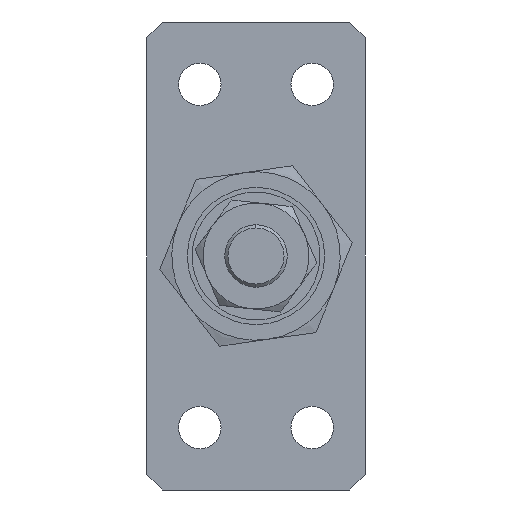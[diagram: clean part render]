
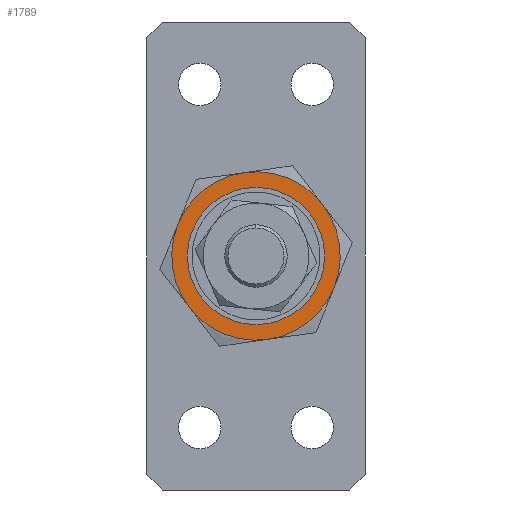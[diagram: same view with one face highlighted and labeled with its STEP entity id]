
A CAD part, left-side view. The second image highlights one B-rep face of the part: STEP entity #1789.
In plain terms, the highlighted planar face has unit normal (-1, 0, 0) as drawn and (0, 0, -1) by its records, which use the part's own axes.
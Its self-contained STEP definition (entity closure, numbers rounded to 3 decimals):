
#41 = AXIS2_PLACEMENT_3D ( 'NONE', #1384, #1090, #4224 ) ;
#47 = EDGE_CURVE ( 'NONE', #2459, #3938, #316, .T. ) ;
#82 = DIRECTION ( 'NONE',  ( 0., 0., 1. ) ) ;
#90 = AXIS2_PLACEMENT_3D ( 'NONE', #1731, #1877, #2382 ) ;
#146 = CIRCLE ( 'NONE', #3131, 10.25 ) ;
#209 = DIRECTION ( 'NONE',  ( 1., 0., 0. ) ) ;
#225 = VERTEX_POINT ( 'NONE', #244 ) ;
#244 = CARTESIAN_POINT ( 'NONE',  ( 10.25, 0., -5. ) ) ;
#316 = CIRCLE ( 'NONE', #41, 13.5 ) ;
#427 = DIRECTION ( 'NONE',  ( 1., 0., 0. ) ) ;
#429 = CARTESIAN_POINT ( 'NONE',  ( 0., 0., -5. ) ) ;
#573 = DIRECTION ( 'NONE',  ( 0., 0., 1. ) ) ;
#718 = AXIS2_PLACEMENT_3D ( 'NONE', #3729, #2376, #427 ) ;
#754 = CIRCLE ( 'NONE', #1694, 13.5 ) ;
#1042 = ORIENTED_EDGE ( 'NONE', *, *, #2053, .F. ) ;
#1090 = DIRECTION ( 'NONE',  ( 0., 0., 1. ) ) ;
#1317 = CARTESIAN_POINT ( 'NONE',  ( 13.5, 0., -5. ) ) ;
#1350 = AXIS2_PLACEMENT_3D ( 'NONE', #2370, #4009, #3576 ) ;
#1370 = CARTESIAN_POINT ( 'NONE',  ( 0., 0., -5. ) ) ;
#1384 = CARTESIAN_POINT ( 'NONE',  ( 0., 0., -5. ) ) ;
#1413 = EDGE_CURVE ( 'NONE', #2491, #225, #146, .T. ) ;
#1460 = EDGE_LOOP ( 'NONE', ( #4363, #3165, #1811, #1499, #3929, #1042 ) ) ;
#1494 = EDGE_CURVE ( 'NONE', #225, #2491, #2557, .T. ) ;
#1499 = ORIENTED_EDGE ( 'NONE', *, *, #3984, .F. ) ;
#1502 = EDGE_CURVE ( 'NONE', #3649, #2682, #754, .T. ) ;
#1694 = AXIS2_PLACEMENT_3D ( 'NONE', #429, #3939, #3652 ) ;
#1731 = CARTESIAN_POINT ( 'NONE',  ( 0., 0., -5. ) ) ;
#1789 = ADVANCED_FACE ( 'NONE', ( #2958, #2449 ), #3239, .F. ) ;
#1811 = ORIENTED_EDGE ( 'NONE', *, *, #47, .F. ) ;
#1842 = EDGE_LOOP ( 'NONE', ( #3007, #2205 ) ) ;
#1877 = DIRECTION ( 'NONE',  ( 0., 0., 1. ) ) ;
#1955 = DIRECTION ( 'NONE',  ( 1., 0., 0. ) ) ;
#2053 = EDGE_CURVE ( 'NONE', #4367, #3649, #2055, .T. ) ;
#2055 = CIRCLE ( 'NONE', #90, 13.5 ) ;
#2152 = EDGE_CURVE ( 'NONE', #3599, #4367, #2278, .T. ) ;
#2205 = ORIENTED_EDGE ( 'NONE', *, *, #1413, .T. ) ;
#2278 = CIRCLE ( 'NONE', #4004, 13.5 ) ;
#2370 = CARTESIAN_POINT ( 'NONE',  ( 0., 0., -5. ) ) ;
#2376 = DIRECTION ( 'NONE',  ( 0., 0., 1. ) ) ;
#2382 = DIRECTION ( 'NONE',  ( 1., 0., 0. ) ) ;
#2429 = CIRCLE ( 'NONE', #3833, 13.5 ) ;
#2449 = FACE_OUTER_BOUND ( 'NONE', #1460, .T. ) ;
#2459 = VERTEX_POINT ( 'NONE', #3302 ) ;
#2491 = VERTEX_POINT ( 'NONE', #3575 ) ;
#2511 = DIRECTION ( 'NONE',  ( 1., 0., 0. ) ) ;
#2557 = CIRCLE ( 'NONE', #1350, 10.25 ) ;
#2682 = VERTEX_POINT ( 'NONE', #4281 ) ;
#2761 = CIRCLE ( 'NONE', #4137, 13.5 ) ;
#2947 = DIRECTION ( 'NONE',  ( 1., 0., 0. ) ) ;
#2958 = FACE_BOUND ( 'NONE', #1842, .T. ) ;
#3007 = ORIENTED_EDGE ( 'NONE', *, *, #1494, .T. ) ;
#3064 = EDGE_CURVE ( 'NONE', #3938, #3599, #2429, .T. ) ;
#3081 = CARTESIAN_POINT ( 'NONE',  ( 6.75, -11.691, -5. ) ) ;
#3131 = AXIS2_PLACEMENT_3D ( 'NONE', #4208, #3723, #2511 ) ;
#3165 = ORIENTED_EDGE ( 'NONE', *, *, #3064, .F. ) ;
#3239 = PLANE ( 'NONE',  #718 ) ;
#3302 = CARTESIAN_POINT ( 'NONE',  ( -6.75, -11.691, -5. ) ) ;
#3462 = CARTESIAN_POINT ( 'NONE',  ( -6.75, 11.691, -5. ) ) ;
#3510 = DIRECTION ( 'NONE',  ( 0., 0., 1. ) ) ;
#3575 = CARTESIAN_POINT ( 'NONE',  ( -10.25, 0., -5. ) ) ;
#3576 = DIRECTION ( 'NONE',  ( 1., 0., 0. ) ) ;
#3599 = VERTEX_POINT ( 'NONE', #1317 ) ;
#3649 = VERTEX_POINT ( 'NONE', #3462 ) ;
#3652 = DIRECTION ( 'NONE',  ( 1., 0., 0. ) ) ;
#3659 = CARTESIAN_POINT ( 'NONE',  ( 0., 0., -5. ) ) ;
#3723 = DIRECTION ( 'NONE',  ( 0., 0., 1. ) ) ;
#3729 = CARTESIAN_POINT ( 'NONE',  ( 0., 0., -5. ) ) ;
#3833 = AXIS2_PLACEMENT_3D ( 'NONE', #3659, #573, #209 ) ;
#3929 = ORIENTED_EDGE ( 'NONE', *, *, #1502, .F. ) ;
#3938 = VERTEX_POINT ( 'NONE', #3081 ) ;
#3939 = DIRECTION ( 'NONE',  ( 0., 0., 1. ) ) ;
#3984 = EDGE_CURVE ( 'NONE', #2682, #2459, #2761, .T. ) ;
#4004 = AXIS2_PLACEMENT_3D ( 'NONE', #4105, #82, #1955 ) ;
#4009 = DIRECTION ( 'NONE',  ( 0., 0., 1. ) ) ;
#4105 = CARTESIAN_POINT ( 'NONE',  ( 0., 0., -5. ) ) ;
#4137 = AXIS2_PLACEMENT_3D ( 'NONE', #1370, #3510, #2947 ) ;
#4208 = CARTESIAN_POINT ( 'NONE',  ( 0., 0., -5. ) ) ;
#4224 = DIRECTION ( 'NONE',  ( 1., 0., 0. ) ) ;
#4281 = CARTESIAN_POINT ( 'NONE',  ( -13.5, 0., -5. ) ) ;
#4324 = CARTESIAN_POINT ( 'NONE',  ( 6.75, 11.691, -5. ) ) ;
#4363 = ORIENTED_EDGE ( 'NONE', *, *, #2152, .F. ) ;
#4367 = VERTEX_POINT ( 'NONE', #4324 ) ;
